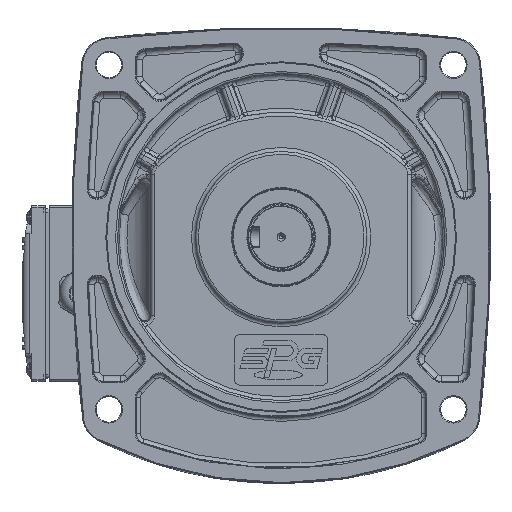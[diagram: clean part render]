
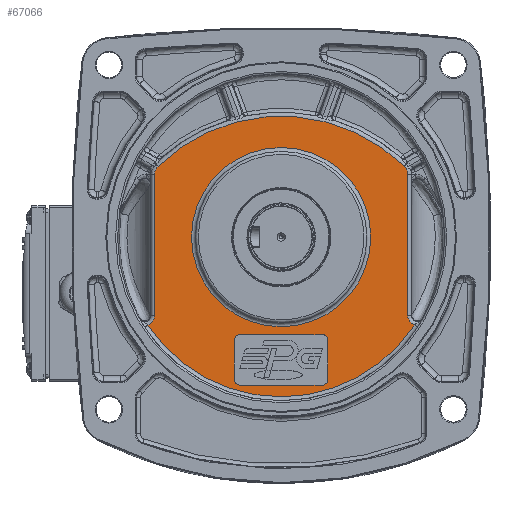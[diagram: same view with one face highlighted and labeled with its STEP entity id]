
A CAD part, top view. The second image highlights one B-rep face of the part: STEP entity #67066.
In plain terms, the highlighted planar face has unit normal (0, 0, 1).
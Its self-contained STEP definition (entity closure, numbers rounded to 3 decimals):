
#1131=FACE_BOUND('',#16706,.T.);
#1132=FACE_BOUND('',#16707,.T.);
#1950=PLANE('',#73437);
#4083=LINE('',#146243,#7164);
#4087=LINE('',#146255,#7168);
#4122=LINE('',#146374,#7203);
#4192=LINE('',#146559,#7273);
#4442=LINE('',#153004,#7523);
#4443=LINE('',#153019,#7524);
#7164=VECTOR('',#86143,10.);
#7168=VECTOR('',#86155,10.);
#7203=VECTOR('',#86246,10.);
#7273=VECTOR('',#86434,10.);
#7523=VECTOR('',#87782,10.);
#7524=VECTOR('',#87785,10.);
#12469=FACE_OUTER_BOUND('',#16705,.T.);
#16705=EDGE_LOOP('',(#54931,#54932,#54933,#54934,#54935,#54936,#54937,#54938));
#16706=EDGE_LOOP('',(#54939,#54940,#54941,#54942,#54943,#54944,#54945,#54946));
#16707=EDGE_LOOP('',(#54947));
#20589=CIRCLE('',#72796,3.);
#20591=CIRCLE('',#72800,3.);
#20593=CIRCLE('',#72804,3.);
#20617=CIRCLE('',#72831,3.);
#20927=CIRCLE('',#73433,81.929);
#20931=CIRCLE('',#73438,90.551);
#20932=CIRCLE('',#73439,46.);
#24018=B_SPLINE_CURVE_WITH_KNOTS('',3,(#152981,#152982,#152983,#152984,
#152985),.UNSPECIFIED.,.F.,.F.,(4,1,4),(0.682,0.93,
1.302),.UNSPECIFIED.);
#24020=B_SPLINE_CURVE_WITH_KNOTS('',3,(#152997,#152998,#152999,#153000,
#153001,#153002),.UNSPECIFIED.,.F.,.F.,(4,1,1,4),(0.,0.372,0.558,
0.621),.UNSPECIFIED.);
#24021=B_SPLINE_CURVE_WITH_KNOTS('',3,(#153006,#153007,#153008,#153009,
#153010),.UNSPECIFIED.,.F.,.F.,(4,1,4),(0.,0.205,0.478),
 .UNSPECIFIED.);
#24022=B_SPLINE_CURVE_WITH_KNOTS('',3,(#153014,#153015,#153016,#153017,
#153018),.UNSPECIFIED.,.F.,.F.,(4,1,4),(0.,0.273,0.478),
 .UNSPECIFIED.);
#28648=VERTEX_POINT('',#146233);
#28649=VERTEX_POINT('',#146235);
#28651=VERTEX_POINT('',#146241);
#28653=VERTEX_POINT('',#146247);
#28655=VERTEX_POINT('',#146253);
#28658=VERTEX_POINT('',#146260);
#28659=VERTEX_POINT('',#146262);
#28711=VERTEX_POINT('',#146373);
#29184=VERTEX_POINT('',#152775);
#29185=VERTEX_POINT('',#152777);
#29189=VERTEX_POINT('',#152980);
#29191=VERTEX_POINT('',#152996);
#29192=VERTEX_POINT('',#153003);
#29193=VERTEX_POINT('',#153005);
#29194=VERTEX_POINT('',#153011);
#29195=VERTEX_POINT('',#153013);
#29196=VERTEX_POINT('',#153020);
#37092=EDGE_CURVE('',#28648,#28649,#20589,.T.);
#37096=EDGE_CURVE('',#28648,#28651,#4083,.T.);
#37099=EDGE_CURVE('',#28653,#28651,#20591,.T.);
#37102=EDGE_CURVE('',#28653,#28655,#4087,.T.);
#37105=EDGE_CURVE('',#28658,#28659,#20593,.T.);
#37162=EDGE_CURVE('',#28711,#28659,#4122,.T.);
#37164=EDGE_CURVE('',#28711,#28655,#20617,.T.);
#37257=EDGE_CURVE('',#28658,#28649,#4192,.T.);
#38038=EDGE_CURVE('',#29184,#29185,#20927,.T.);
#38045=EDGE_CURVE('',#29185,#29189,#24018,.T.);
#38048=EDGE_CURVE('',#29191,#29184,#24020,.T.);
#38049=EDGE_CURVE('',#29192,#29191,#4442,.T.);
#38050=EDGE_CURVE('',#29193,#29192,#24021,.T.);
#38051=EDGE_CURVE('',#29194,#29193,#20931,.T.);
#38052=EDGE_CURVE('',#29195,#29194,#24022,.T.);
#38053=EDGE_CURVE('',#29189,#29195,#4443,.T.);
#38054=EDGE_CURVE('',#29196,#29196,#20932,.T.);
#54931=ORIENTED_EDGE('',*,*,#38038,.F.);
#54932=ORIENTED_EDGE('',*,*,#38048,.F.);
#54933=ORIENTED_EDGE('',*,*,#38049,.F.);
#54934=ORIENTED_EDGE('',*,*,#38050,.F.);
#54935=ORIENTED_EDGE('',*,*,#38051,.F.);
#54936=ORIENTED_EDGE('',*,*,#38052,.F.);
#54937=ORIENTED_EDGE('',*,*,#38053,.F.);
#54938=ORIENTED_EDGE('',*,*,#38045,.F.);
#54939=ORIENTED_EDGE('',*,*,#37102,.T.);
#54940=ORIENTED_EDGE('',*,*,#37164,.F.);
#54941=ORIENTED_EDGE('',*,*,#37162,.T.);
#54942=ORIENTED_EDGE('',*,*,#37105,.F.);
#54943=ORIENTED_EDGE('',*,*,#37257,.T.);
#54944=ORIENTED_EDGE('',*,*,#37092,.F.);
#54945=ORIENTED_EDGE('',*,*,#37096,.T.);
#54946=ORIENTED_EDGE('',*,*,#37099,.F.);
#54947=ORIENTED_EDGE('',*,*,#38054,.F.);
#67066=ADVANCED_FACE('',(#12469,#1131,#1132),#1950,.F.);
#72796=AXIS2_PLACEMENT_3D('',#146236,#86136,#86137);
#72800=AXIS2_PLACEMENT_3D('',#146249,#86149,#86150);
#72804=AXIS2_PLACEMENT_3D('',#146263,#86161,#86162);
#72831=AXIS2_PLACEMENT_3D('',#146377,#86250,#86251);
#73433=AXIS2_PLACEMENT_3D('',#152778,#87772,#87773);
#73437=AXIS2_PLACEMENT_3D('',#152995,#87780,#87781);
#73438=AXIS2_PLACEMENT_3D('',#153012,#87783,#87784);
#73439=AXIS2_PLACEMENT_3D('',#153021,#87786,#87787);
#86136=DIRECTION('center_axis',(0.,0.,1.));
#86137=DIRECTION('ref_axis',(0.707,-0.707,0.));
#86143=DIRECTION('',(-1.,0.,0.));
#86149=DIRECTION('center_axis',(0.,0.,1.));
#86150=DIRECTION('ref_axis',(-0.707,-0.707,0.));
#86155=DIRECTION('',(0.,1.,0.));
#86161=DIRECTION('center_axis',(0.,0.,1.));
#86162=DIRECTION('ref_axis',(0.707,0.707,0.));
#86246=DIRECTION('',(1.,0.,0.));
#86250=DIRECTION('center_axis',(0.,0.,1.));
#86251=DIRECTION('ref_axis',(-0.707,0.707,0.));
#86434=DIRECTION('',(0.,-1.,0.));
#87772=DIRECTION('center_axis',(0.,0.,-1.));
#87773=DIRECTION('ref_axis',(0.,-1.,0.));
#87780=DIRECTION('center_axis',(0.,0.,-1.));
#87781=DIRECTION('ref_axis',(-1.,0.,0.));
#87782=DIRECTION('',(0.,-1.,0.));
#87783=DIRECTION('center_axis',(0.,0.,-1.));
#87784=DIRECTION('ref_axis',(0.,1.,0.));
#87785=DIRECTION('',(0.,1.,0.));
#87786=DIRECTION('center_axis',(0.,0.,1.));
#87787=DIRECTION('ref_axis',(-1.,0.,0.));
#146233=CARTESIAN_POINT('',(28.481,-63.038,31.75));
#146235=CARTESIAN_POINT('',(31.481,-60.038,31.75));
#146236=CARTESIAN_POINT('Origin',(28.481,-60.038,31.75));
#146241=CARTESIAN_POINT('',(-13.519,-63.038,31.75));
#146243=CARTESIAN_POINT('',(-4.519,-63.038,31.75));
#146247=CARTESIAN_POINT('',(-16.519,-60.038,31.75));
#146249=CARTESIAN_POINT('Origin',(-13.519,-60.038,31.75));
#146253=CARTESIAN_POINT('',(-16.519,-40.038,31.75));
#146255=CARTESIAN_POINT('',(-16.519,-26.288,31.75));
#146260=CARTESIAN_POINT('',(31.481,-40.038,31.75));
#146262=CARTESIAN_POINT('',(28.481,-37.038,31.75));
#146263=CARTESIAN_POINT('Origin',(28.481,-40.038,31.75));
#146373=CARTESIAN_POINT('',(-13.519,-37.038,31.75));
#146374=CARTESIAN_POINT('',(19.481,-37.038,31.75));
#146377=CARTESIAN_POINT('Origin',(-13.519,-40.038,31.75));
#146559=CARTESIAN_POINT('',(31.481,-39.288,31.75));
#152775=CARTESIAN_POINT('',(75.89,-32.122,31.75));
#152777=CARTESIAN_POINT('',(-60.927,-32.122,31.75));
#152778=CARTESIAN_POINT('Origin',(7.481,12.962,31.75));
#152980=CARTESIAN_POINT('',(-57.519,-27.37,31.75));
#152981=CARTESIAN_POINT('Ctrl Pts',(-60.929,-32.118,
31.75));
#152982=CARTESIAN_POINT('Ctrl Pts',(-60.14,-31.848,
31.75));
#152983=CARTESIAN_POINT('Ctrl Pts',(-58.329,-30.689,
31.75));
#152984=CARTESIAN_POINT('Ctrl Pts',(-57.519,-28.61,
31.75));
#152985=CARTESIAN_POINT('Ctrl Pts',(-57.519,-27.37,
31.75));
#152995=CARTESIAN_POINT('Origin',(7.481,-15.538,31.75));
#152996=CARTESIAN_POINT('',(72.481,-27.37,31.75));
#152997=CARTESIAN_POINT('Ctrl Pts',(72.481,-27.37,
31.75));
#152998=CARTESIAN_POINT('Ctrl Pts',(72.481,-28.61,
31.75));
#152999=CARTESIAN_POINT('Ctrl Pts',(73.211,-30.472,
31.75));
#153000=CARTESIAN_POINT('Ctrl Pts',(74.921,-31.735,
31.75));
#153001=CARTESIAN_POINT('Ctrl Pts',(75.693,-32.05,
31.75));
#153002=CARTESIAN_POINT('Ctrl Pts',(75.892,-32.117,
31.75));
#153003=CARTESIAN_POINT('',(72.481,45.022,31.75));
#153004=CARTESIAN_POINT('',(72.481,-57.288,31.75));
#153005=CARTESIAN_POINT('',(70.667,49.324,31.75));
#153006=CARTESIAN_POINT('Ctrl Pts',(70.667,49.324,31.75));
#153007=CARTESIAN_POINT('Ctrl Pts',(71.156,48.848,31.75));
#153008=CARTESIAN_POINT('Ctrl Pts',(72.116,47.523,31.75));
#153009=CARTESIAN_POINT('Ctrl Pts',(72.481,45.932,31.75));
#153010=CARTESIAN_POINT('Ctrl Pts',(72.481,45.022,31.75));
#153011=CARTESIAN_POINT('',(-55.704,49.324,31.75));
#153012=CARTESIAN_POINT('Origin',(7.481,-15.538,31.75));
#153013=CARTESIAN_POINT('',(-57.519,45.022,31.75));
#153014=CARTESIAN_POINT('Ctrl Pts',(-57.519,45.022,
31.75));
#153015=CARTESIAN_POINT('Ctrl Pts',(-57.519,45.932,
31.75));
#153016=CARTESIAN_POINT('Ctrl Pts',(-57.153,47.523,
31.75));
#153017=CARTESIAN_POINT('Ctrl Pts',(-56.193,48.848,
31.75));
#153018=CARTESIAN_POINT('Ctrl Pts',(-55.704,49.324,
31.75));
#153019=CARTESIAN_POINT('',(-57.519,-57.288,31.75));
#153020=CARTESIAN_POINT('',(53.481,12.962,31.75));
#153021=CARTESIAN_POINT('Origin',(7.481,12.962,31.75));
